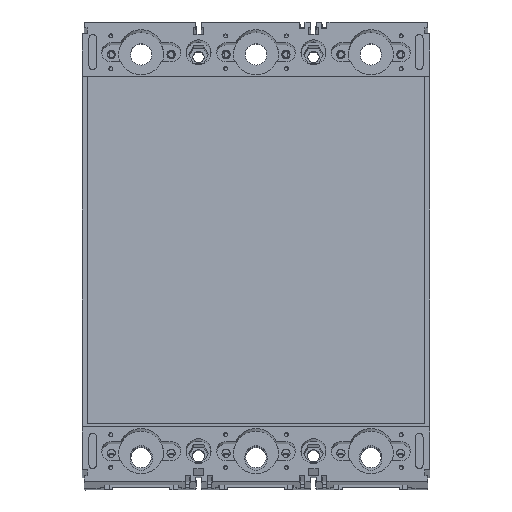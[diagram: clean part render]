
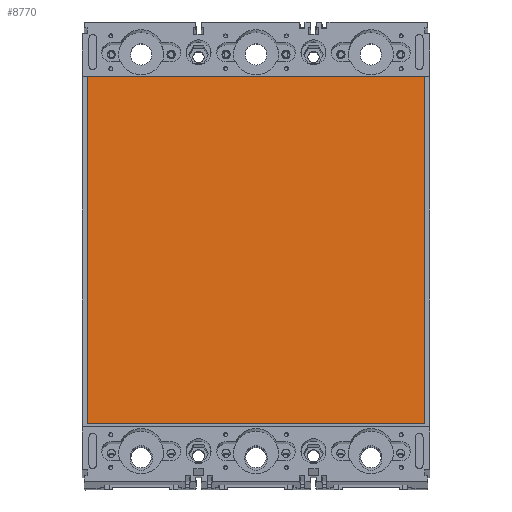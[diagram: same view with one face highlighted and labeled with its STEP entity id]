
A CAD part, top view. The second image highlights one B-rep face of the part: STEP entity #8770.
In plain terms, the highlighted planar face has unit normal (0, 0.05, 0.999) as drawn and (0, 0, 1) by its records, which use the part's own axes.
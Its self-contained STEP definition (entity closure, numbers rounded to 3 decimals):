
#113=DIRECTION('',(-1.,0.,0.));
#114=VECTOR('',#113,205.7);
#115=CARTESIAN_POINT('',(-216.892,-58.785,118.7));
#116=LINE('',#115,#114);
#129=DIRECTION('',(0.,-1.,0.));
#130=VECTOR('',#129,212.1);
#131=CARTESIAN_POINT('',(-216.892,153.315,118.7));
#132=LINE('',#131,#130);
#141=DIRECTION('',(1.,0.,0.));
#142=VECTOR('',#141,205.7);
#143=CARTESIAN_POINT('',(-422.592,153.315,118.7));
#144=LINE('',#143,#142);
#6611=DIRECTION('',(0.,1.,0.));
#6612=VECTOR('',#6611,212.1);
#6613=CARTESIAN_POINT('',(-422.592,-58.785,118.7));
#6614=LINE('',#6613,#6612);
#6927=CARTESIAN_POINT('',(-422.592,153.315,118.7));
#6928=CARTESIAN_POINT('',(-216.892,153.315,118.7));
#6929=VERTEX_POINT('',#6927);
#6930=VERTEX_POINT('',#6928);
#6931=CARTESIAN_POINT('',(-422.592,-58.785,118.7));
#6932=VERTEX_POINT('',#6931);
#6933=CARTESIAN_POINT('',(-216.892,-58.785,118.7));
#6934=VERTEX_POINT('',#6933);
#8755=CARTESIAN_POINT('',(-354.742,46.415,118.7));
#8756=DIRECTION('',(0.,0.,1.));
#8757=DIRECTION('',(0.,1.,0.));
#8758=AXIS2_PLACEMENT_3D('',#8755,#8756,#8757);
#8759=PLANE('',#8758);
#8761=ORIENTED_EDGE('',*,*,#8760,.T.);
#8763=ORIENTED_EDGE('',*,*,#8762,.T.);
#8765=ORIENTED_EDGE('',*,*,#8764,.T.);
#8767=ORIENTED_EDGE('',*,*,#8766,.T.);
#8768=EDGE_LOOP('',(#8761,#8763,#8765,#8767));
#8769=FACE_OUTER_BOUND('',#8768,.F.);
#8770=ADVANCED_FACE('',(#8769),#8759,.T.);
#8760=EDGE_CURVE('',#6929,#6930,#144,.T.);
#8762=EDGE_CURVE('',#6930,#6934,#132,.T.);
#8764=EDGE_CURVE('',#6934,#6932,#116,.T.);
#8766=EDGE_CURVE('',#6932,#6929,#6614,.T.);
